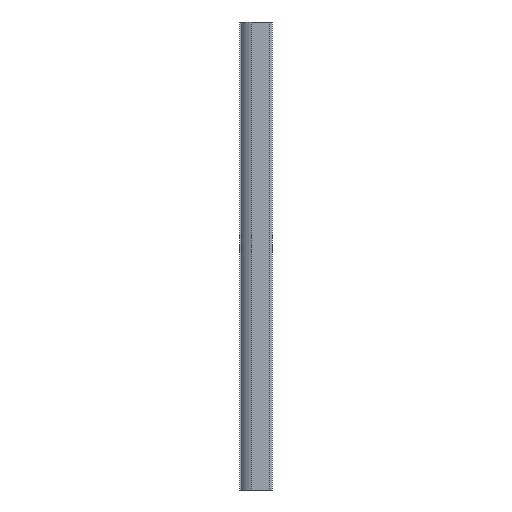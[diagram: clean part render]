
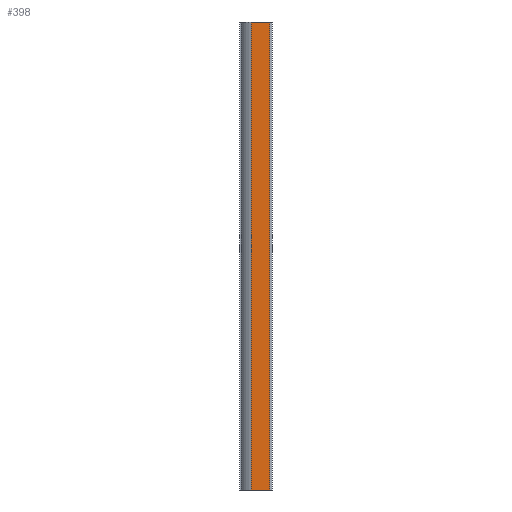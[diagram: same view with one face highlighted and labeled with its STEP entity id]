
A CAD part, left-side view. The second image highlights one B-rep face of the part: STEP entity #398.
In plain terms, the highlighted planar face has unit normal (-1, 0, 0).
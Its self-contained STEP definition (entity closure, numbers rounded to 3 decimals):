
#25 = DIRECTION ( 'NONE',  ( 0., -1., 0. ) ) ;
#48 = VECTOR ( 'NONE', #25, 1000. ) ;
#60 = CARTESIAN_POINT ( 'NONE',  ( -12.5, 9.845, 250. ) ) ;
#86 = ORIENTED_EDGE ( 'NONE', *, *, #363, .T. ) ;
#204 = VECTOR ( 'NONE', #1477, 1000. ) ;
#211 = CARTESIAN_POINT ( 'NONE',  ( -12.5, 9.845, 250. ) ) ;
#273 = DIRECTION ( 'NONE',  ( 0., 0., 1. ) ) ;
#363 = EDGE_CURVE ( 'NONE', #1310, #806, #964, .T. ) ;
#398 = ADVANCED_FACE ( 'NONE', ( #941 ), #1833, .F. ) ;
#417 = CARTESIAN_POINT ( 'NONE',  ( -12.5, -9.5, 250. ) ) ;
#425 = CARTESIAN_POINT ( 'NONE',  ( -12.5, -9.5, 250. ) ) ;
#444 = VECTOR ( 'NONE', #951, 1000. ) ;
#455 = CARTESIAN_POINT ( 'NONE',  ( -12.5, 9.845, -250. ) ) ;
#478 = CARTESIAN_POINT ( 'NONE',  ( -12.5, -9.5, -250. ) ) ;
#492 = EDGE_CURVE ( 'NONE', #806, #1171, #697, .T. ) ;
#547 = EDGE_LOOP ( 'NONE', ( #1841, #1251, #1845, #86 ) ) ;
#576 = LINE ( 'NONE', #425, #1148 ) ;
#603 = CARTESIAN_POINT ( 'NONE',  ( -12.5, 9.845, -250. ) ) ;
#697 = LINE ( 'NONE', #455, #48 ) ;
#806 = VERTEX_POINT ( 'NONE', #603 ) ;
#930 = AXIS2_PLACEMENT_3D ( 'NONE', #60, #972, #1097 ) ;
#941 = FACE_OUTER_BOUND ( 'NONE', #547, .T. ) ;
#951 = DIRECTION ( 'NONE',  ( 0., 0., -1. ) ) ;
#964 = LINE ( 'NONE', #211, #444 ) ;
#972 = DIRECTION ( 'NONE',  ( 1., 0., 0. ) ) ;
#1072 = LINE ( 'NONE', #1642, #204 ) ;
#1095 = CARTESIAN_POINT ( 'NONE',  ( -12.5, 9.845, 250. ) ) ;
#1097 = DIRECTION ( 'NONE',  ( 0., 1., 0. ) ) ;
#1148 = VECTOR ( 'NONE', #273, 1000. ) ;
#1171 = VERTEX_POINT ( 'NONE', #478 ) ;
#1251 = ORIENTED_EDGE ( 'NONE', *, *, #1459, .T. ) ;
#1310 = VERTEX_POINT ( 'NONE', #1095 ) ;
#1434 = VERTEX_POINT ( 'NONE', #417 ) ;
#1459 = EDGE_CURVE ( 'NONE', #1171, #1434, #576, .T. ) ;
#1477 = DIRECTION ( 'NONE',  ( 0., -1., 0. ) ) ;
#1642 = CARTESIAN_POINT ( 'NONE',  ( -12.5, 9.845, 250. ) ) ;
#1645 = EDGE_CURVE ( 'NONE', #1310, #1434, #1072, .T. ) ;
#1833 = PLANE ( 'NONE',  #930 ) ;
#1841 = ORIENTED_EDGE ( 'NONE', *, *, #492, .T. ) ;
#1845 = ORIENTED_EDGE ( 'NONE', *, *, #1645, .F. ) ;
